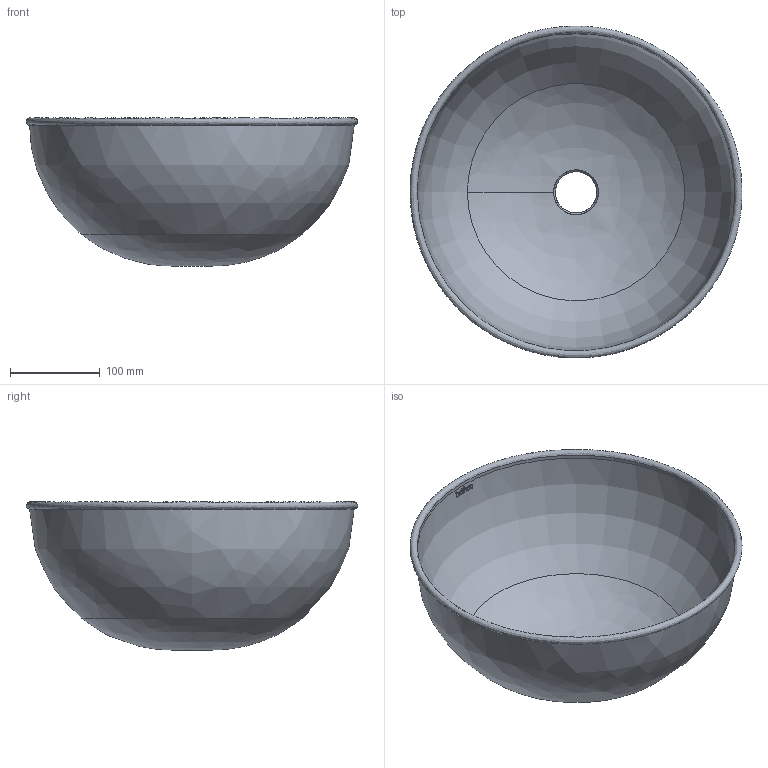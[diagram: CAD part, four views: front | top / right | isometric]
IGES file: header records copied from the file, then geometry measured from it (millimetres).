
Global section: file name: D:\Renovando Conceptos\Trabajos Varios\BathCo\47 Biblioteca Lavabos 3D\8303 Mogro\8303_Mogro.igs; native system: Rhinoceros ( Feb 26 2015 ); preprocessor: Trout Lake IGES 012 Feb 26 2015; date: 201109.062901; units: millimetre
Bounding box: 369.93 x 369.88 x 165 mm (x, y, z)
Surface area: 402420.8 mm2 (no closed solid volume)
Topology: 0 solids, 0 shells, 73 faces, 485 edges, 472 vertices
Faces by surface type: bspline 73
